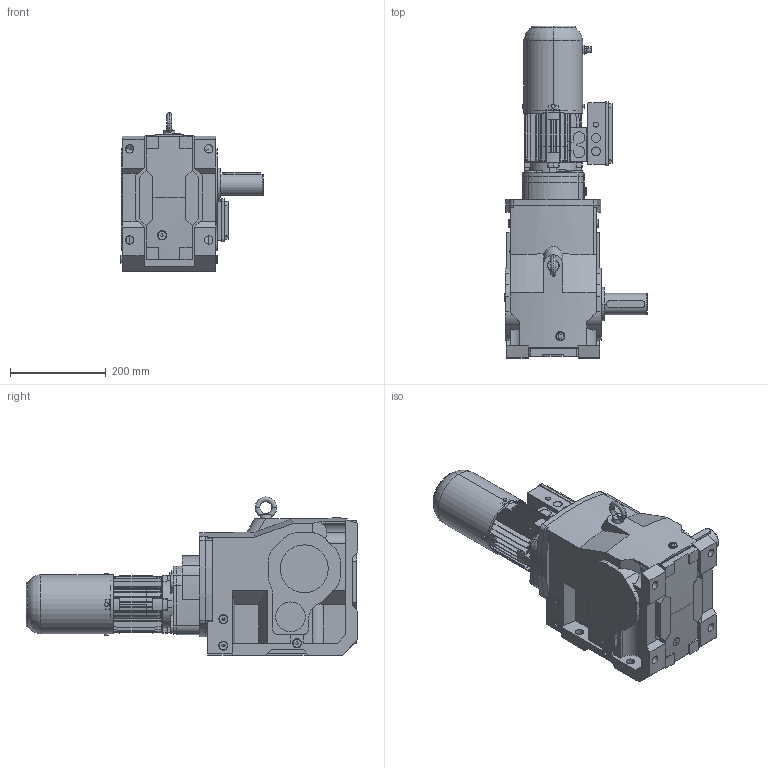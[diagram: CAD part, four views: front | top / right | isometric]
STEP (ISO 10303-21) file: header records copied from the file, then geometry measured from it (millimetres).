
FILE_DESCRIPTION(('STEP AP214'),'1');
FILE_NAME('cctmp_F370BBD8-113A-44D2-B2AA-6EB2D6DF6D83_2026_1_15_1_43_32_89..stp','2026-01-15T00:43:33',('Getriebebau NORD GmbH & Co. KG'),('CADClick - www.CADClick.com'),'Spatial InterOp 3D postprocessed',' ','unknown authorization');
FILE_SCHEMA(('AUTOMOTIVE_DESIGN'));
Length unit declared in the file: millimetre
Products named in the file (13): 2026_01_15__01-43-32-059; 2026_01_15__01-43-32-049; 2026_01_15__01-43-32-039; 2026_01_15__01-43-32-029; 2026_01_15__01-43-32-019; 2026_01_15__01-43-32-009; 2026_01_15__01-43-31-999; 2026_01_15__01-43-31-989; 2026_01_15__01-43-31-979; 2026_01_15__01-43-31-969; 2026_01_15__01-43-31-949; 2026_01_15__01-43-31-939
Assembly tree (12 placements, depth 2):
  (unnamed)
    2026_01_15__01-43-32-059
    2026_01_15__01-43-32-049
    2026_01_15__01-43-32-039
    2026_01_15__01-43-32-029
    2026_01_15__01-43-32-019
    2026_01_15__01-43-32-009
    2026_01_15__01-43-31-999
    2026_01_15__01-43-31-989
    2026_01_15__01-43-31-979
    2026_01_15__01-43-31-969
    2026_01_15__01-43-31-949
    2026_01_15__01-43-31-939
Bounding box: 297 x 691.89 x 330 mm (x, y, z)
Volume: 21036088.8 mm3; surface area: 1022699 mm2
Topology: 21 solids, 37 shells, 1407 faces, 3695 edges, 2413 vertices
Faces by surface type: plane 802, cylinder 493, cone 96, torus 14, sphere 2
Entity records: 48692 total; most frequent: CARTESIAN_POINT 8962, DIRECTION 7498, ORIENTED_EDGE 7346, EDGE_CURVE 3673, AXIS2_PLACEMENT_3D 2640, VERTEX_POINT 2413, LINE 2218, VECTOR 2218
